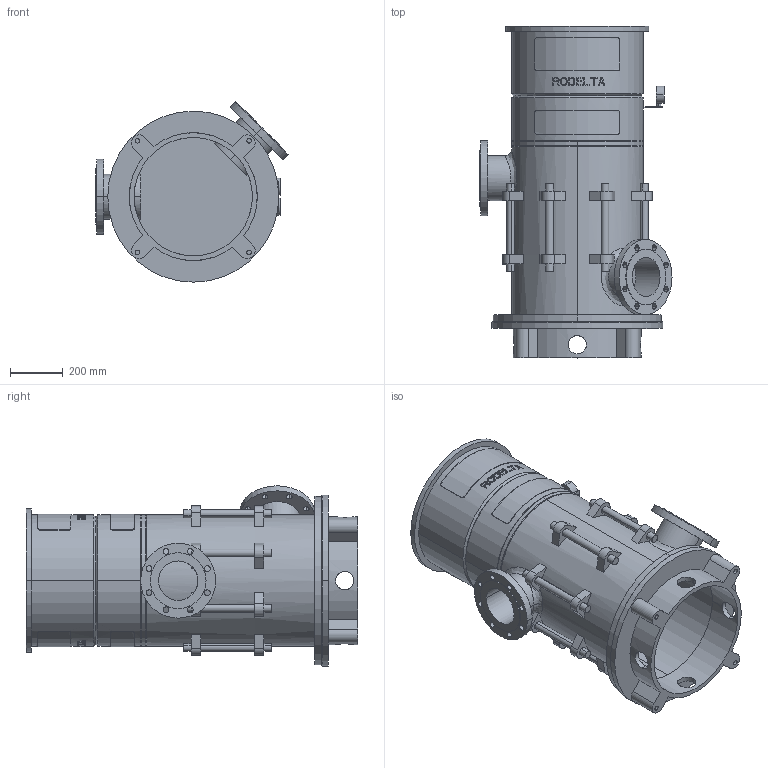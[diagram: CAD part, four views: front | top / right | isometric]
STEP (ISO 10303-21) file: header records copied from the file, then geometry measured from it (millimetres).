
FILE_DESCRIPTION((''),'2;1');
FILE_NAME('LS6_2TR_0GR_ABOVE_30KW','2023-08-15T',('Lyritlocal'),(''),'PRO/ENGINEER BY PARAMETRIC TECHNOLOGY CORPORATION, 2016360','PRO/ENGINEER BY PARAMETRIC TECHNOLOGY CORPORATION, 2016360','');
FILE_SCHEMA(('CONFIG_CONTROL_DESIGN'));
Length unit declared in the file: millimetre
Products named in the file (1): LS6_2TR_0GR_ABOVE_30KW
Bounding box: 730.27 x 1261 x 685.27 mm (x, y, z)
Volume: 44515240.4 mm3; surface area: 5930606.1 mm2
Topology: 3 solids, 7 shells, 684 faces, 1767 edges, 1174 vertices
Faces by surface type: plane 422, cylinder 242, cone 12, bspline 8
Entity records: 22578 total; most frequent: CARTESIAN_POINT 5966, ORIENTED_EDGE 3518, DIRECTION 3273, EDGE_CURVE 1767, AXIS2_PLACEMENT_3D 1237, VERTEX_POINT 1174, EDGE_LOOP 829, VECTOR 799
